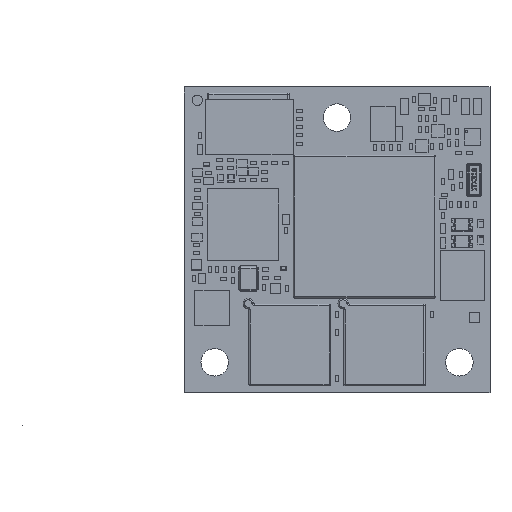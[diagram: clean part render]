
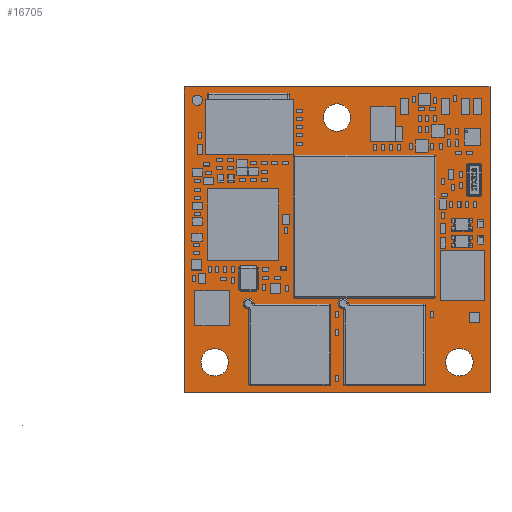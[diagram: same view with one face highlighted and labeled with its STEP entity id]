
A CAD part, top view. The second image highlights one B-rep face of the part: STEP entity #16705.
In plain terms, the highlighted planar face has unit normal (0, 0, 1).
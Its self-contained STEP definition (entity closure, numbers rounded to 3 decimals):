
#16705=ADVANCED_FACE('',(#32357,#32358,#32359,#32360),#32361,.T.);
#32357=FACE_BOUND('',#52019,.T.);
#32358=FACE_BOUND('',#52020,.T.);
#32359=FACE_BOUND('',#52021,.T.);
#32360=FACE_OUTER_BOUND('',#52022,.T.);
#32361=PLANE('',#52023);
#52019=EDGE_LOOP('',(#73229));
#52020=EDGE_LOOP('',(#73230));
#52021=EDGE_LOOP('',(#73231));
#52022=EDGE_LOOP('',(#73232,#73233,#73234,#73235));
#52023=AXIS2_PLACEMENT_3D('',#73236,#73237,#73238);
#73229=ORIENTED_EDGE('',*,*,#105414,.T.);
#73230=ORIENTED_EDGE('',*,*,#105417,.T.);
#73231=ORIENTED_EDGE('',*,*,#105420,.T.);
#73232=ORIENTED_EDGE('',*,*,#105422,.T.);
#73233=ORIENTED_EDGE('',*,*,#105423,.T.);
#73234=ORIENTED_EDGE('',*,*,#105424,.T.);
#73235=ORIENTED_EDGE('',*,*,#105425,.T.);
#73236=CARTESIAN_POINT('',(15.0,15.0,1.581));
#73237=DIRECTION('',(0.0,0.0,1.0));
#73238=DIRECTION('',(1.0,0.0,0.0));
#105414=EDGE_CURVE('',#121782,#121782,#121783,.T.);
#105417=EDGE_CURVE('',#121787,#121787,#121788,.T.);
#105420=EDGE_CURVE('',#121792,#121792,#121793,.T.);
#105422=EDGE_CURVE('',#121795,#121796,#121797,.T.);
#105423=EDGE_CURVE('',#121796,#121798,#121799,.T.);
#105424=EDGE_CURVE('',#121798,#121800,#121801,.T.);
#105425=EDGE_CURVE('',#121800,#121795,#121802,.T.);
#121782=VERTEX_POINT('',#146201);
#121783=CIRCLE('',#146202,1.35);
#121787=VERTEX_POINT('',#146206);
#121788=CIRCLE('',#146207,1.35);
#121792=VERTEX_POINT('',#146211);
#121793=CIRCLE('',#146212,1.35);
#121795=VERTEX_POINT('',#146214);
#121796=VERTEX_POINT('',#146215);
#121797=LINE('',#146216,#146217);
#121798=VERTEX_POINT('',#146218);
#121799=LINE('',#146219,#146220);
#121800=VERTEX_POINT('',#146221);
#121801=LINE('',#146222,#146223);
#121802=LINE('',#146224,#146225);
#146201=CARTESIAN_POINT('',(25.65,3.0,1.581));
#146202=AXIS2_PLACEMENT_3D('',#172868,#172869,#172870);
#146206=CARTESIAN_POINT('',(1.65,3.0,1.581));
#146207=AXIS2_PLACEMENT_3D('',#172874,#172875,#172876);
#146211=CARTESIAN_POINT('',(13.65,27.0,1.581));
#146212=AXIS2_PLACEMENT_3D('',#172880,#172881,#172882);
#146214=CARTESIAN_POINT('',(0.0,0.0,1.581));
#146215=CARTESIAN_POINT('',(30.0,0.0,1.581));
#146216=CARTESIAN_POINT('',(15.0,0.0,1.581));
#146217=VECTOR('',#172883,1.0);
#146218=CARTESIAN_POINT('',(30.0,30.0,1.581));
#146219=CARTESIAN_POINT('',(30.0,15.0,1.581));
#146220=VECTOR('',#172884,1.0);
#146221=CARTESIAN_POINT('',(0.0,30.0,1.581));
#146222=CARTESIAN_POINT('',(15.0,30.0,1.581));
#146223=VECTOR('',#172885,1.0);
#146224=CARTESIAN_POINT('',(0.0,15.0,1.581));
#146225=VECTOR('',#172886,1.0);
#172868=CARTESIAN_POINT('',(27.0,3.0,1.581));
#172869=DIRECTION('',(0.0,0.0,-1.0));
#172870=DIRECTION('',(1.0,0.0,0.0));
#172874=CARTESIAN_POINT('',(3.0,3.0,1.581));
#172875=DIRECTION('',(0.0,0.0,-1.0));
#172876=DIRECTION('',(1.0,0.0,0.0));
#172880=CARTESIAN_POINT('',(15.0,27.0,1.581));
#172881=DIRECTION('',(0.0,0.0,-1.0));
#172882=DIRECTION('',(1.0,0.0,0.0));
#172883=DIRECTION('',(1.0,0.0,0.0));
#172884=DIRECTION('',(0.0,1.0,0.0));
#172885=DIRECTION('',(-1.0,0.0,0.0));
#172886=DIRECTION('',(0.0,-1.0,0.0));
